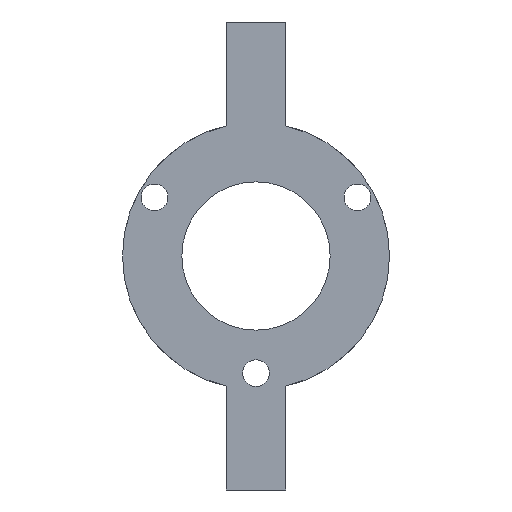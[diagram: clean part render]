
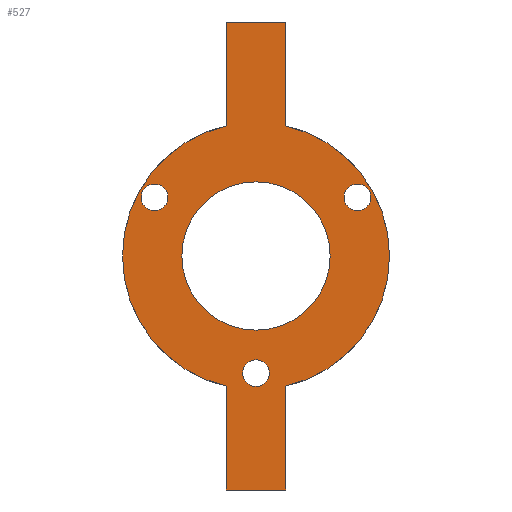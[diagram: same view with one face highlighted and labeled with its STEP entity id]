
A CAD part, front view. The second image highlights one B-rep face of the part: STEP entity #527.
In plain terms, the highlighted planar face has unit normal (0, -1, 0).
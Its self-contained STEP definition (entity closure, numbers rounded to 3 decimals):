
#23 = CIRCLE ( 'NONE', #27, 4.5 ) ;
#26 = VECTOR ( 'NONE', #448, 1000. ) ;
#27 = AXIS2_PLACEMENT_3D ( 'NONE', #445, #446, #447 ) ;
#28 = CIRCLE ( 'NONE', #30, 4.5 ) ;
#30 = AXIS2_PLACEMENT_3D ( 'NONE', #450, #451, #452 ) ;
#31 = CIRCLE ( 'NONE', #33, 25. ) ;
#33 = AXIS2_PLACEMENT_3D ( 'NONE', #460, #461, #462 ) ;
#38 = AXIS2_PLACEMENT_3D ( 'NONE', #384, #388, #389 ) ;
#46 = CIRCLE ( 'NONE', #48, 45. ) ;
#48 = AXIS2_PLACEMENT_3D ( 'NONE', #426, #427, #428 ) ;
#60 = EDGE_CURVE ( 'NONE', #277, #281, #554, .T. ) ;
#65 = EDGE_CURVE ( 'NONE', #279, #284, #111, .T. ) ;
#66 = EDGE_CURVE ( 'NONE', #596, #593, #113, .T. ) ;
#67 = EDGE_CURVE ( 'NONE', #284, #279, #259, .T. ) ;
#74 = EDGE_CURVE ( 'NONE', #598, #596, #271, .T. ) ;
#75 = EDGE_CURVE ( 'NONE', #599, #598, #204, .T. ) ;
#76 = EDGE_CURVE ( 'NONE', #591, #599, #198, .T. ) ;
#77 = EDGE_CURVE ( 'NONE', #275, #591, #191, .T. ) ;
#78 = EDGE_CURVE ( 'NONE', #286, #287, #231, .T. ) ;
#81 = EDGE_CURVE ( 'NONE', #593, #597, #177, .T. ) ;
#111 = CIRCLE ( 'NONE', #255, 4.5 ) ;
#113 = LINE ( 'NONE', #145, #257 ) ;
#145 = CARTESIAN_POINT ( 'NONE',  ( -10., 0., 34.359 ) ) ;
#154 = CARTESIAN_POINT ( 'NONE',  ( -34.208, 0., 15.25 ) ) ;
#155 = CARTESIAN_POINT ( 'NONE',  ( -34.208, 0., 24.25 ) ) ;
#162 = CARTESIAN_POINT ( 'NONE',  ( 0., 0., -25. ) ) ;
#163 = CARTESIAN_POINT ( 'NONE',  ( 0., 0., 25. ) ) ;
#165 = CARTESIAN_POINT ( 'NONE',  ( 0., 0., -35. ) ) ;
#168 = CARTESIAN_POINT ( 'NONE',  ( 34.208, 0., 24.25 ) ) ;
#169 = CARTESIAN_POINT ( 'NONE',  ( 0., 0., -44. ) ) ;
#170 = CARTESIAN_POINT ( 'NONE',  ( 34.208, 0., 15.25 ) ) ;
#171 = CARTESIAN_POINT ( 'NONE',  ( 10., 0., -43.875 ) ) ;
#174 = DIRECTION ( 'NONE',  ( 1., 0., 0. ) ) ;
#175 = CARTESIAN_POINT ( 'NONE',  ( -10., 0., 78.875 ) ) ;
#177 = LINE ( 'NONE', #175, #234 ) ;
#182 = DIRECTION ( 'NONE',  ( 0., 0., 1. ) ) ;
#183 = DIRECTION ( 'NONE',  ( 0., 1., 0. ) ) ;
#184 = CARTESIAN_POINT ( 'NONE',  ( 0., 0., 0. ) ) ;
#187 = CARTESIAN_POINT ( 'NONE',  ( 10., 0., 43.875 ) ) ;
#188 = DIRECTION ( 'NONE',  ( 0., 0., -1. ) ) ;
#189 = CARTESIAN_POINT ( 'NONE',  ( 10., 0., -31.045 ) ) ;
#191 = LINE ( 'NONE', #189, #227 ) ;
#192 = DIRECTION ( 'NONE',  ( -1., 0., 0. ) ) ;
#193 = CARTESIAN_POINT ( 'NONE',  ( -10., 0., -78.875 ) ) ;
#194 = DIRECTION ( 'NONE',  ( 0., 0., 1. ) ) ;
#195 = DIRECTION ( 'NONE',  ( 0., 0., 1. ) ) ;
#196 = DIRECTION ( 'NONE',  ( 0., 1., 0. ) ) ;
#197 = CARTESIAN_POINT ( 'NONE',  ( 0., 0., 0. ) ) ;
#198 = LINE ( 'NONE', #193, #228 ) ;
#203 = CARTESIAN_POINT ( 'NONE',  ( -10., 0., -31.045 ) ) ;
#204 = LINE ( 'NONE', #203, #226 ) ;
#219 = DIRECTION ( 'NONE',  ( 0., 0., 1. ) ) ;
#220 = DIRECTION ( 'NONE',  ( 0., 1., 0. ) ) ;
#221 = CARTESIAN_POINT ( 'NONE',  ( 0., 0., -39.5 ) ) ;
#222 = DIRECTION ( 'NONE',  ( 0., 0., 1. ) ) ;
#223 = DIRECTION ( 'NONE',  ( 0., 0., 1. ) ) ;
#224 = DIRECTION ( 'NONE',  ( 0., 1., 0. ) ) ;
#225 = CARTESIAN_POINT ( 'NONE',  ( 0., 0., -39.5 ) ) ;
#226 = VECTOR ( 'NONE', #194, 1000. ) ;
#227 = VECTOR ( 'NONE', #188, 1000. ) ;
#228 = VECTOR ( 'NONE', #192, 1000. ) ;
#230 = AXIS2_PLACEMENT_3D ( 'NONE', #350, #351, #352 ) ;
#231 = CIRCLE ( 'NONE', #232, 25. ) ;
#232 = AXIS2_PLACEMENT_3D ( 'NONE', #184, #183, #182 ) ;
#234 = VECTOR ( 'NONE', #174, 1000. ) ;
#238 = CIRCLE ( 'NONE', #230, 4.5 ) ;
#244 = AXIS2_PLACEMENT_3D ( 'NONE', #197, #196, #195 ) ;
#255 = AXIS2_PLACEMENT_3D ( 'NONE', #225, #224, #223 ) ;
#257 = VECTOR ( 'NONE', #222, 1000. ) ;
#259 = CIRCLE ( 'NONE', #260, 4.5 ) ;
#260 = AXIS2_PLACEMENT_3D ( 'NONE', #221, #220, #219 ) ;
#271 = CIRCLE ( 'NONE', #244, 45. ) ;
#275 = VERTEX_POINT ( 'NONE', #171 ) ;
#277 = VERTEX_POINT ( 'NONE', #170 ) ;
#279 = VERTEX_POINT ( 'NONE', #169 ) ;
#280 = VERTEX_POINT ( 'NONE', #187 ) ;
#281 = VERTEX_POINT ( 'NONE', #168 ) ;
#284 = VERTEX_POINT ( 'NONE', #165 ) ;
#286 = VERTEX_POINT ( 'NONE', #163 ) ;
#287 = VERTEX_POINT ( 'NONE', #162 ) ;
#294 = VERTEX_POINT ( 'NONE', #155 ) ;
#295 = VERTEX_POINT ( 'NONE', #154 ) ;
#350 = CARTESIAN_POINT ( 'NONE',  ( -34.208, 0., 19.75 ) ) ;
#351 = DIRECTION ( 'NONE',  ( 0., 1., 0. ) ) ;
#352 = DIRECTION ( 'NONE',  ( 0., 0., 1. ) ) ;
#375 = PLANE ( 'NONE',  #38 ) ;
#377 = FACE_BOUND ( 'NONE', #712, .T. ) ;
#381 = FACE_BOUND ( 'NONE', #714, .T. ) ;
#382 = FACE_BOUND ( 'NONE', #736, .T. ) ;
#384 = CARTESIAN_POINT ( 'NONE',  ( 0., 0., 0. ) ) ;
#385 = FACE_BOUND ( 'NONE', #715, .T. ) ;
#387 = FACE_OUTER_BOUND ( 'NONE', #725, .T. ) ;
#388 = DIRECTION ( 'NONE',  ( 0., 1., 0. ) ) ;
#389 = DIRECTION ( 'NONE',  ( 0., 0., 1. ) ) ;
#426 = CARTESIAN_POINT ( 'NONE',  ( 0., 0., 0. ) ) ;
#427 = DIRECTION ( 'NONE',  ( 0., 1., 0. ) ) ;
#428 = DIRECTION ( 'NONE',  ( 0., 0., 1. ) ) ;
#440 = LINE ( 'NONE', #441, #26 ) ;
#441 = CARTESIAN_POINT ( 'NONE',  ( 10., 0., 34.359 ) ) ;
#445 = CARTESIAN_POINT ( 'NONE',  ( 34.208, 0., 19.75 ) ) ;
#446 = DIRECTION ( 'NONE',  ( 0., 1., 0. ) ) ;
#447 = DIRECTION ( 'NONE',  ( 0., 0., 1. ) ) ;
#448 = DIRECTION ( 'NONE',  ( 0., 0., -1. ) ) ;
#449 = CARTESIAN_POINT ( 'NONE',  ( 10., 0., -78.875 ) ) ;
#450 = CARTESIAN_POINT ( 'NONE',  ( -34.208, 0., 19.75 ) ) ;
#451 = DIRECTION ( 'NONE',  ( 0., 1., 0. ) ) ;
#452 = DIRECTION ( 'NONE',  ( 0., 0., 1. ) ) ;
#453 = CARTESIAN_POINT ( 'NONE',  ( -10., 0., 43.875 ) ) ;
#459 = CARTESIAN_POINT ( 'NONE',  ( -10., 0., -43.875 ) ) ;
#460 = CARTESIAN_POINT ( 'NONE',  ( 0., 0., 0. ) ) ;
#461 = DIRECTION ( 'NONE',  ( 0., 1., 0. ) ) ;
#462 = DIRECTION ( 'NONE',  ( 0., 0., 1. ) ) ;
#463 = CARTESIAN_POINT ( 'NONE',  ( -10., 0., 78.875 ) ) ;
#465 = CARTESIAN_POINT ( 'NONE',  ( 10., 0., 78.875 ) ) ;
#466 = CARTESIAN_POINT ( 'NONE',  ( -10., 0., -78.875 ) ) ;
#518 = EDGE_CURVE ( 'NONE', #295, #294, #238, .T. ) ;
#527 = ADVANCED_FACE ( 'NONE', ( #382, #377, #385, #387, #381 ), #375, .F. ) ;
#536 = EDGE_CURVE ( 'NONE', #280, #275, #46, .T. ) ;
#543 = EDGE_CURVE ( 'NONE', #281, #277, #23, .T. ) ;
#544 = EDGE_CURVE ( 'NONE', #597, #280, #440, .T. ) ;
#545 = EDGE_CURVE ( 'NONE', #294, #295, #28, .T. ) ;
#547 = EDGE_CURVE ( 'NONE', #287, #286, #31, .T. ) ;
#549 = AXIS2_PLACEMENT_3D ( 'NONE', #562, #561, #560 ) ;
#554 = CIRCLE ( 'NONE', #549, 4.5 ) ;
#560 = DIRECTION ( 'NONE',  ( 0., 0., 1. ) ) ;
#561 = DIRECTION ( 'NONE',  ( 0., 1., 0. ) ) ;
#562 = CARTESIAN_POINT ( 'NONE',  ( 34.208, 0., 19.75 ) ) ;
#591 = VERTEX_POINT ( 'NONE', #449 ) ;
#593 = VERTEX_POINT ( 'NONE', #463 ) ;
#596 = VERTEX_POINT ( 'NONE', #453 ) ;
#597 = VERTEX_POINT ( 'NONE', #465 ) ;
#598 = VERTEX_POINT ( 'NONE', #459 ) ;
#599 = VERTEX_POINT ( 'NONE', #466 ) ;
#644 = ORIENTED_EDGE ( 'NONE', *, *, #67, .T. ) ;
#645 = ORIENTED_EDGE ( 'NONE', *, *, #65, .T. ) ;
#646 = ORIENTED_EDGE ( 'NONE', *, *, #543, .T. ) ;
#647 = ORIENTED_EDGE ( 'NONE', *, *, #60, .T. ) ;
#648 = ORIENTED_EDGE ( 'NONE', *, *, #545, .T. ) ;
#649 = ORIENTED_EDGE ( 'NONE', *, *, #518, .T. ) ;
#650 = ORIENTED_EDGE ( 'NONE', *, *, #536, .F. ) ;
#651 = ORIENTED_EDGE ( 'NONE', *, *, #544, .F. ) ;
#652 = ORIENTED_EDGE ( 'NONE', *, *, #81, .F. ) ;
#653 = ORIENTED_EDGE ( 'NONE', *, *, #66, .F. ) ;
#654 = ORIENTED_EDGE ( 'NONE', *, *, #74, .F. ) ;
#655 = ORIENTED_EDGE ( 'NONE', *, *, #75, .F. ) ;
#656 = ORIENTED_EDGE ( 'NONE', *, *, #76, .F. ) ;
#657 = ORIENTED_EDGE ( 'NONE', *, *, #77, .F. ) ;
#658 = ORIENTED_EDGE ( 'NONE', *, *, #547, .T. ) ;
#659 = ORIENTED_EDGE ( 'NONE', *, *, #78, .T. ) ;
#712 = EDGE_LOOP ( 'NONE', ( #646, #647 ) ) ;
#714 = EDGE_LOOP ( 'NONE', ( #658, #659 ) ) ;
#715 = EDGE_LOOP ( 'NONE', ( #648, #649 ) ) ;
#725 = EDGE_LOOP ( 'NONE', ( #650, #651, #652, #653, #654, #655, #656, #657 ) ) ;
#736 = EDGE_LOOP ( 'NONE', ( #644, #645 ) ) ;
